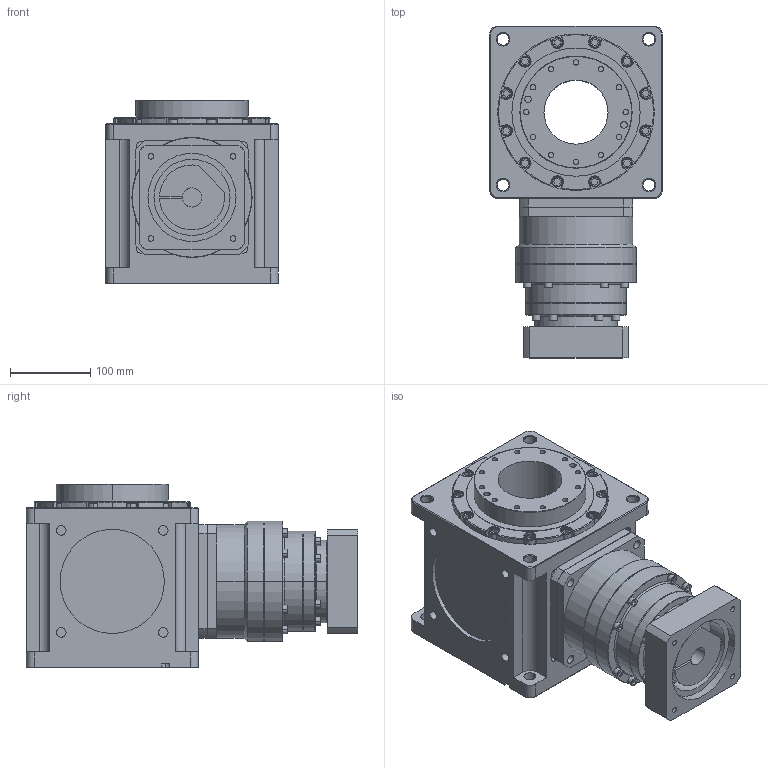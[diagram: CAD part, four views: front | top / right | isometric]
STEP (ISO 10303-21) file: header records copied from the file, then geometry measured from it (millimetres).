
FILE_DESCRIPTION (( 'STEP AP214' ), '1' );
FILE_NAME ('CCW215A-L2(24-200)-RF 24-110-145-M8.STEP', '2025-06-02T06:12:47', ( '微软用户' ), ( '微软中国' ), 'SwSTEP 2.0', 'SolidWorks 2024', '' );
FILE_SCHEMA (( 'AUTOMOTIVE_DESIGN' ));
Length unit declared in the file: millimetre
Products named in the file (4): CCW215A-002-RF箱体; CCW215A-L2(24-200)-RF 24-110-145-M8; CCW215A行星垫板; VRB-142-L2-S2-P1 24-110-145-M8
Assembly tree (3 placements, depth 2):
  CCW215A-L2(24-200)-RF 24-110-145-M8
    VRB-142-L2-S2-P1 24-110-145-M8
    CCW215A-002-RF箱体
    CCW215A行星垫板
Bounding box: 215 x 414 x 229.5 mm (x, y, z)
Volume: 10604897.7 mm3; surface area: 585586.7 mm2
Topology: 3 solids, 3 shells, 888 faces, 2143 edges, 1353 vertices
Faces by surface type: plane 408, cylinder 331, torus 67, cone 58, bspline 24
Entity records: 27062 total; most frequent: CARTESIAN_POINT 5579, DIRECTION 4723, ORIENTED_EDGE 4282, EDGE_CURVE 2141, AXIS2_PLACEMENT_3D 1781, VERTEX_POINT 1353, LINE 1161, VECTOR 1161
